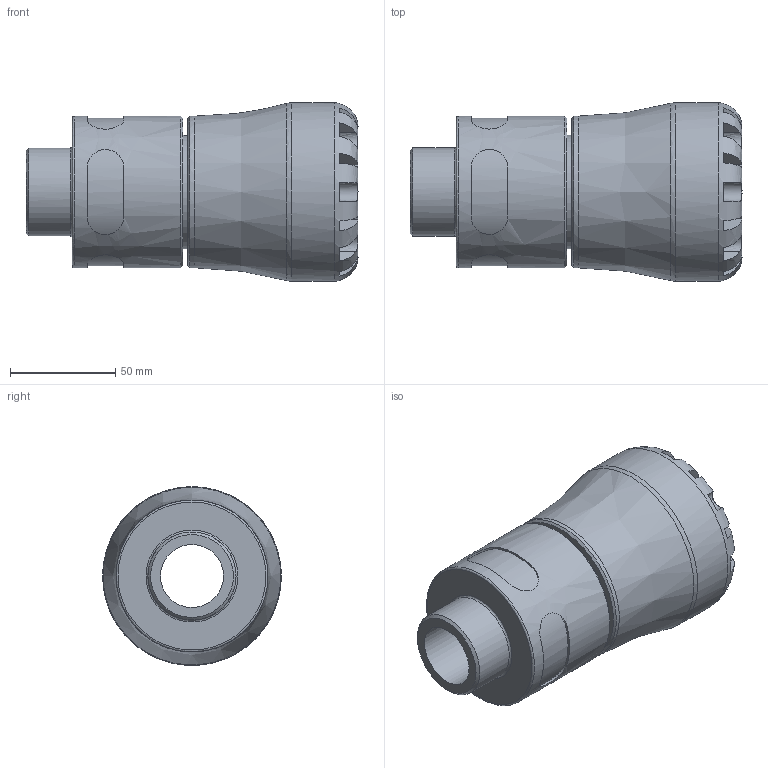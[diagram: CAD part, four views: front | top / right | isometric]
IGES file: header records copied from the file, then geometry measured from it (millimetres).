
Global section: file name: 10N200050013_10N2G0050013; native system: Autodesk Inventor 2019; preprocessor: unknown; author: KIM; date: 20240312.131956; units: millimetre
Bounding box: 158 x 85 x 84.96 mm (x, y, z)
Volume: 431825.8 mm3; surface area: 68372.3 mm2
Topology: 1 solids, 1 shells, 106 faces, 279 edges, 182 vertices
Faces by surface type: bspline 106
